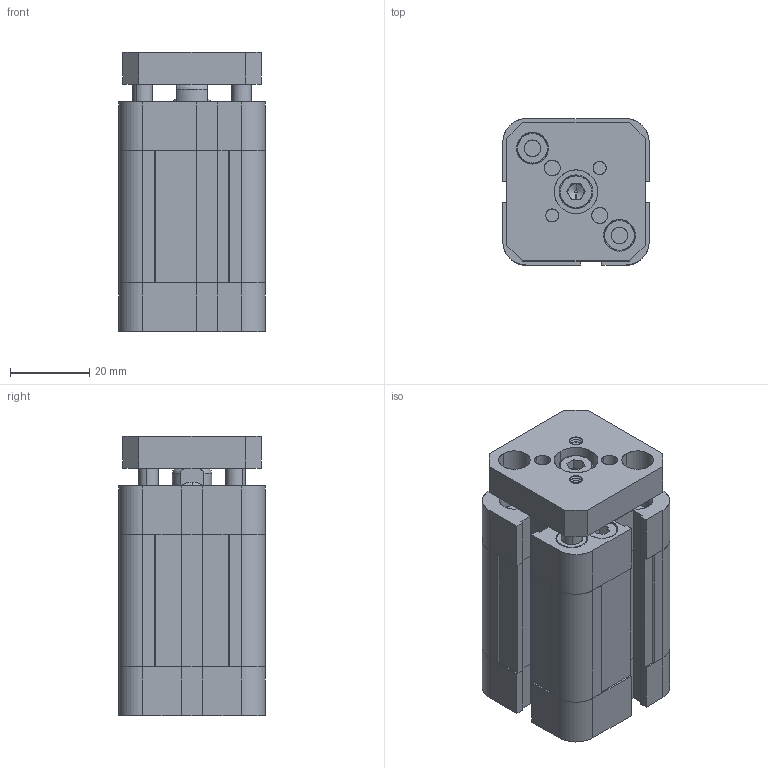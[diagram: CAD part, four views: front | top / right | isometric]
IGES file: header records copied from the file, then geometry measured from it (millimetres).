
Start section: SolidWorks IGES file using analytic representation for surfaces
Global section: file name: c:\CATALO3D\IGS\NSKU020.0020 F AR.IGS; native system: SolidWorks 2009; preprocessor: SolidWorks 2009; author: utente16; date: 100616.151826; units: millimetre
Bounding box: 37 x 37 x 70.5 mm (x, y, z)
Surface area: 33459.2 mm2 (no closed solid volume)
Topology: 0 solids, 0 shells, 667 faces, 13008 edges, 16224 vertices
Faces by surface type: revolution 345, bspline 322
